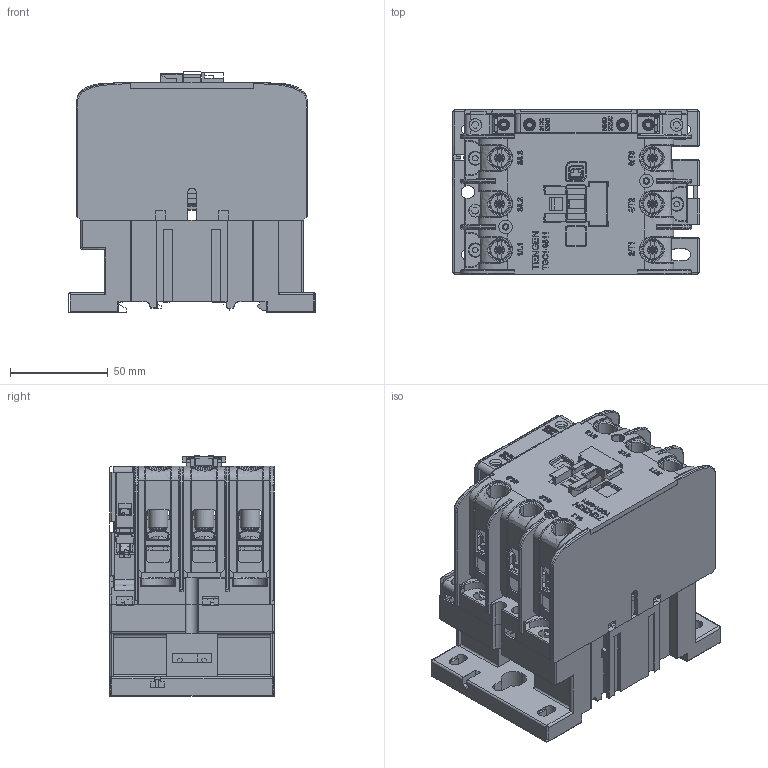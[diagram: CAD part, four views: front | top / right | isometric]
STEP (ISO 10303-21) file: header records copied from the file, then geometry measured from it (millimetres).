
FILE_DESCRIPTION((''),'2;1');
FILE_NAME('2TZD_400_1055_SW0001','2022-04-09T',('wangchen1'),(''),'PRO/ENGINEER BY PARAMETRIC TECHNOLOGY CORPORATION, 2017170','PRO/ENGINEER BY PARAMETRIC TECHNOLOGY CORPORATION, 2017170','');
FILE_SCHEMA(('CONFIG_CONTROL_DESIGN'));
Products named in the file (1): 2TZD_400_1055_SW0001
Bounding box: 126.5 x 84.3 x 123.1 mm (x, y, z)
Surface area: 282303.8 mm2 (no closed solid volume)
Topology: 0 solids, 192 shells, 2680 faces, 14909 edges, 11837 vertices
Faces by surface type: plane 2097, cylinder 464, bspline 68, cone 42, torus 9
Entity records: 164264 total; most frequent: CARTESIAN_POINT 43250, DIRECTION 20805, ORIENTED_EDGE 20771, EDGE_CURVE 14909, VERTEX_POINT 11837, VECTOR 11355, LINE 11355, AXIS2_PLACEMENT_3D 4725
